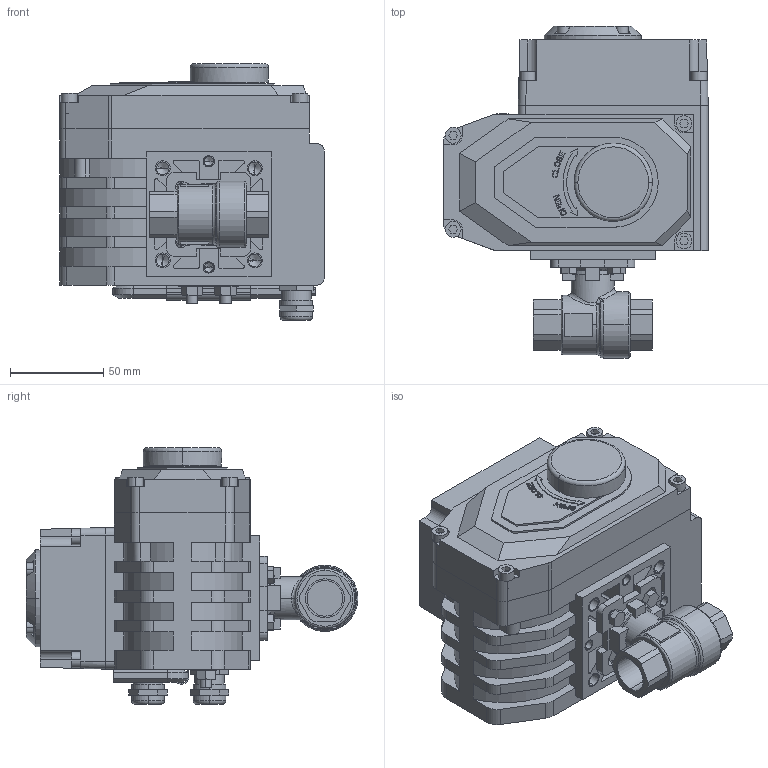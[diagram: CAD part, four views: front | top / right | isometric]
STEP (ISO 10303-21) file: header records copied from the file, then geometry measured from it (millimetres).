
FILE_DESCRIPTION((''),'2;1');
FILE_NAME('BV-21F_EAR_T_ASM','2025-03-02T',('AMD'),(''),'PRO/ENGINEER BY PARAMETRIC TECHNOLOGY CORPORATION, 2008020','PRO/ENGINEER BY PARAMETRIC TECHNOLOGY CORPORATION, 2008020','');
FILE_SCHEMA(('CONFIG_CONTROL_DESIGN'));
Length unit declared in the file: millimetre
Products named in the file (15): KORPUS_KRANA; GAIKA_KRANA; SB_KRAN_ASM; DET_1; V-11738-M5; V-11738-M4; DET_2; KREPLENIE; KLUCH; DET_3; G-5915-M6; ELECTROPRIVOD_ASM; ELECTROPRIVOD_WITH_DISPLAY_ASM; BOLT; BV-21F_EAR_T_ASM
Assembly tree (28 placements, depth 4):
  BV-21F_EAR_T_ASM
    SB_KRAN_ASM
      KORPUS_KRANA
      GAIKA_KRANA
    ELECTROPRIVOD_WITH_DISPLAY_ASM
      ELECTROPRIVOD_ASM
        DET_1
        V-11738-M5  x8
        V-11738-M4  x4
        DET_2
        KREPLENIE
        KLUCH
        DET_3
        G-5915-M6  x2
    BOLT  x4
Bounding box: 142 x 178.25 x 138 mm (x, y, z)
Volume: 1403297.1 mm3; surface area: 173148.5 mm2
Topology: 25 solids, 59 shells, 1248 faces, 3226 edges, 2118 vertices
Faces by surface type: plane 849, cylinder 308, cone 67, torus 12, bspline 10, sphere 2
Entity records: 32340 total; most frequent: CARTESIAN_POINT 6385, DIRECTION 5350, ORIENTED_EDGE 5240, EDGE_CURVE 2662, VECTOR 2000, LINE 2000, VERTEX_POINT 1758, AXIS2_PLACEMENT_3D 1675
